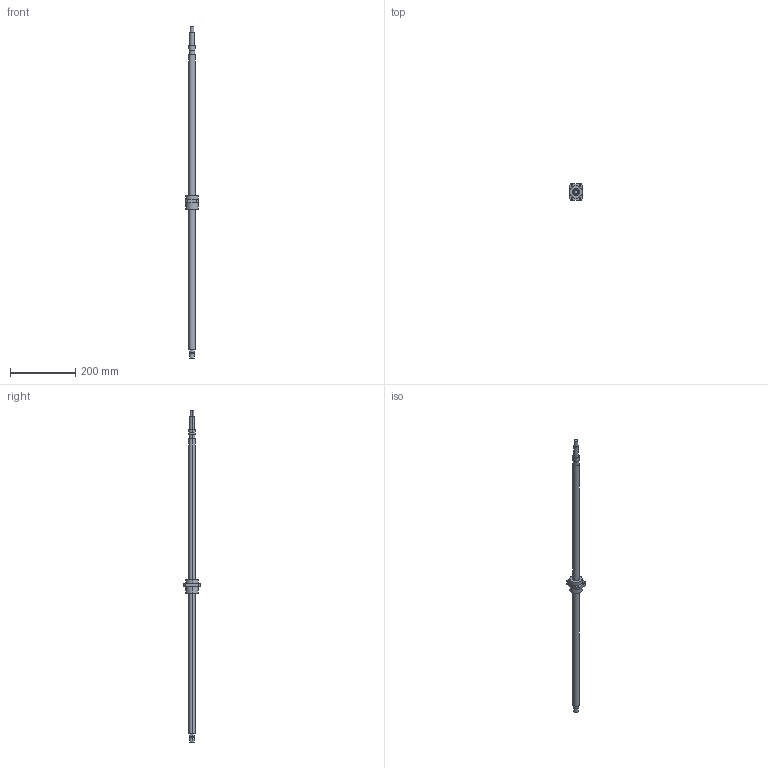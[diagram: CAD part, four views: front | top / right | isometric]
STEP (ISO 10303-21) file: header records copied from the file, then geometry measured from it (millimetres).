
FILE_DESCRIPTION((''),'2;1');
FILE_NAME('2R20-40V2-DFSH-906-1020','2008-03-27T',('wcwu'),(''),'PRO/ENGINEER BY PARAMETRIC TECHNOLOGY CORPORATION, 2005070','PRO/ENGINEER BY PARAMETRIC TECHNOLOGY CORPORATION, 2005070','');
FILE_SCHEMA(('CONFIG_CONTROL_DESIGN'));
Length unit declared in the file: millimetre
Products named in the file (1): 2R20-40V2-DFSH-906-1020
Bounding box: 40 x 52 x 1020 mm (x, y, z)
Volume: 347423.1 mm3; surface area: 69940.4 mm2
Topology: 1 solids, 1 shells, 56 faces, 128 edges, 84 vertices
Faces by surface type: cylinder 34, plane 22
Entity records: 1666 total; most frequent: DIRECTION 312, CARTESIAN_POINT 268, ORIENTED_EDGE 256, AXIS2_PLACEMENT_3D 128, EDGE_CURVE 128, VERTEX_POINT 84, EDGE_LOOP 74, CIRCLE 72
